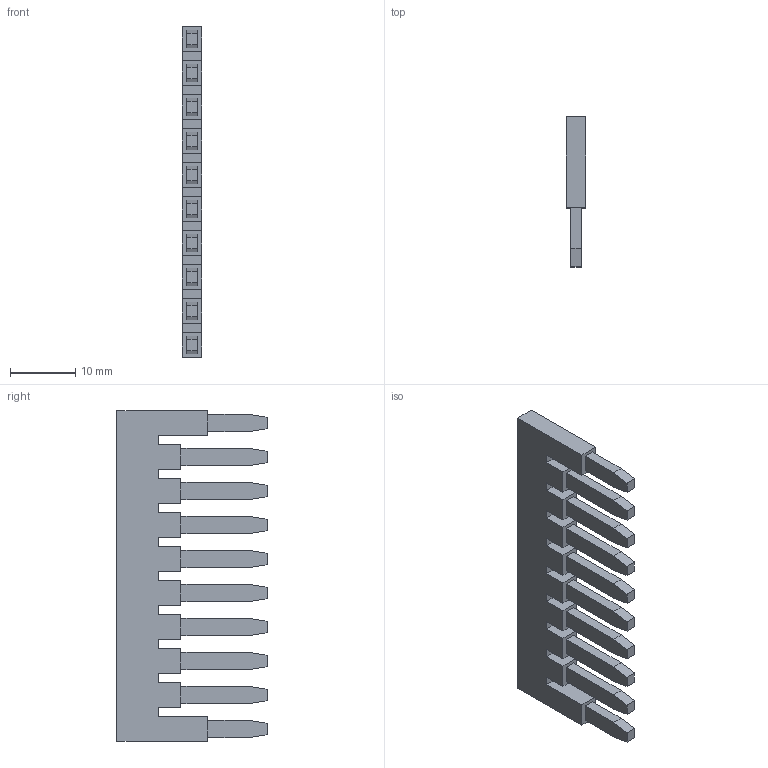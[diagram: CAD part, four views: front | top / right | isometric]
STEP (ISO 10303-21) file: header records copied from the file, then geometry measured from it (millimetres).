
FILE_DESCRIPTION(('SolidDesigner STEP Export'),'2;1');
FILE_NAME('3030213_FBS_10_5-select.stp','2017-05-30T 9:01:38',(''),(''),'Creo Elements/Direct Modeling STEP processor for AP214 (Solid Model)','Creo Elements/Direct Modeling 18.1G 27-Feb-2015 (C) Parametric Technology GmbH','');
FILE_SCHEMA(('AUTOMOTIVE_DESIGN { 1 0 10303 214 1 1 1 1 }'));
Length unit declared in the file: millimetre
Products named in the file (2): 3030213_FBS_10_5-select
Assembly tree (1 placements, depth 2):
  3030213_FBS_10_5-select
    3030213_FBS_10_5-select
Bounding box: 3 x 22.98 x 50.6 mm (x, y, z)
Volume: 1957.3 mm3; surface area: 2583.9 mm2
Topology: 1 solids, 1 shells, 112 faces, 300 edges, 200 vertices
Faces by surface type: plane 112
Entity records: 4320 total; most frequent: CARTESIAN_POINT 605, ORIENTED_EDGE 600, DIRECTION 510, VECTOR 300, LINE 300, EDGE_CURVE 300, VERTEX_POINT 200, EDGE_LOOP 122
